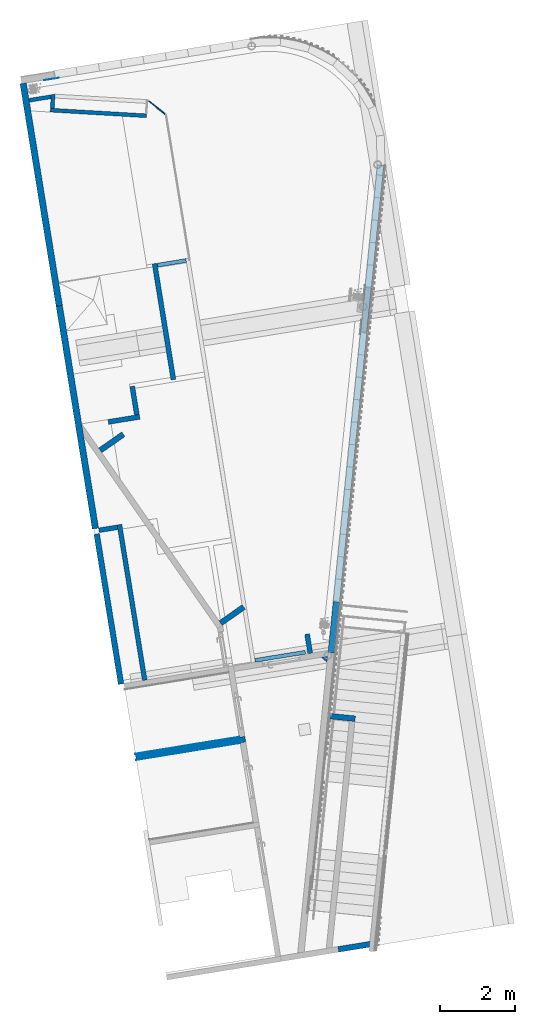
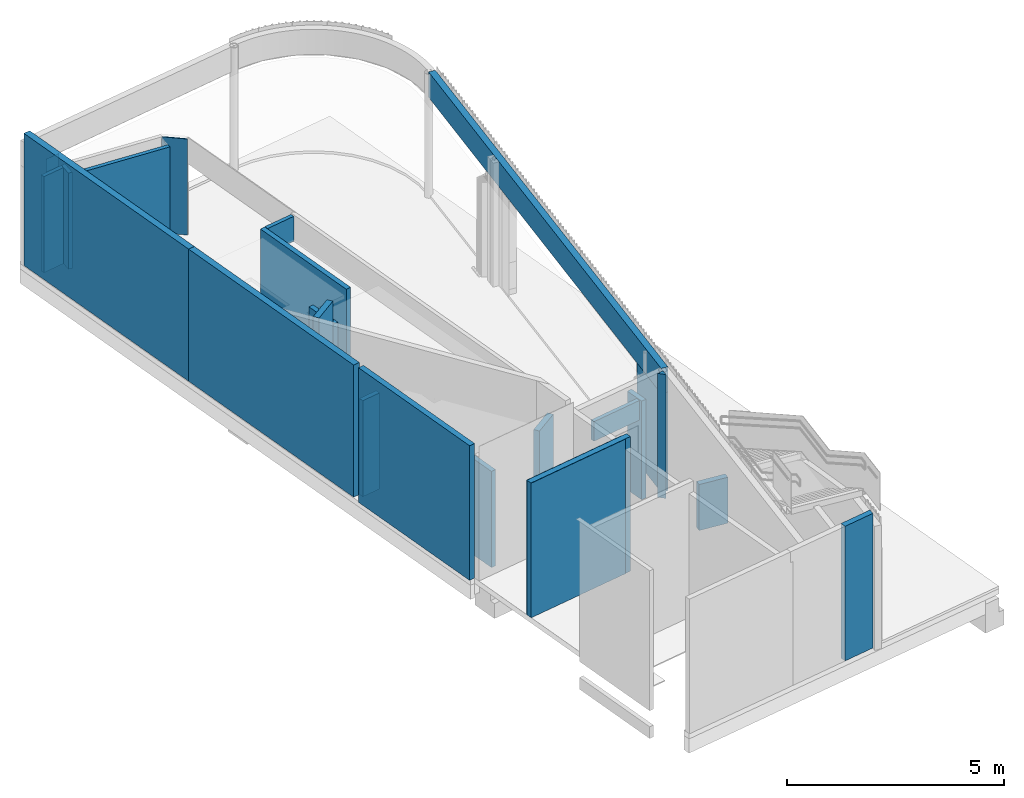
# One storey, part 10 of 23: 26 walls.
"""IFC2X3 building model written with IfcOpenShell, lengths in millimetres."""

from ifc_helpers import new_model, entity, si_unit, converted_unit, derived_unit, direction, frame, frame_2d, origin, origin_with_axes, place, context, subcontext, project, spatial, polyline, rectangle, outline, extrude, material, layer, layer_set, layer_usage, type_object, element, save


model = new_model("IFC2X3")

# Units and contexts
plan_context = context("Plan", 3, precision=1e-05, world=origin_with_axes())
model_context = context("Model", 3, precision=0.01, world=origin(), true_north=direction((6.12323399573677e-17, 1.0)))
body_context = subcontext(model_context, "Body", "Model", "MODEL_VIEW")
ifc_project = project(units=[converted_unit("PLANEANGLEUNIT", "DEGREE", entity("IfcPositiveLengthMeasure", 0.0174532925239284), si_unit("PLANEANGLEUNIT", "RADIAN"), dimensions=[0, 0, 0, 0, 0, 0, 0]), si_unit("AREAUNIT", "SQUARE_METRE"), si_unit("LENGTHUNIT", "METRE", prefix="MILLI"), si_unit("MASSUNIT", "GRAM", prefix="KILO"), si_unit("POWERUNIT", "WATT"), si_unit("PRESSUREUNIT", "PASCAL", prefix="KILO"), si_unit("FORCEUNIT", "NEWTON", prefix="KILO"), si_unit("ELECTRICVOLTAGEUNIT", "VOLT"), si_unit("ELECTRICCURRENTUNIT", "AMPERE"), si_unit("THERMODYNAMICTEMPERATUREUNIT", "DEGREE_CELSIUS"), si_unit("TIMEUNIT", "SECOND"), si_unit("VOLUMEUNIT", "CUBIC_METRE"), derived_unit("LINEARVELOCITYUNIT", [(si_unit("LENGTHUNIT", "METRE"), 1), (si_unit("TIMEUNIT", "SECOND"), -1)]), derived_unit("VOLUMETRICFLOWRATEUNIT", [(si_unit("VOLUMEUNIT", "CUBIC_METRE"), 1), (si_unit("TIMEUNIT", "SECOND"), -1)]), derived_unit("THERMALTRANSMITTANCEUNIT", [(si_unit("POWERUNIT", "WATT"), 1), (si_unit("THERMODYNAMICTEMPERATUREUNIT", "KELVIN"), -1), (si_unit("AREAUNIT", "SQUARE_METRE"), -1)]), derived_unit("SOUNDPRESSUREUNIT", [(si_unit("PRESSUREUNIT", "PASCAL"), 1)])], contexts=[model_context, plan_context])

# Site, building, storey
site_placement = place(None, frame((-0.00071070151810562, 0.00438415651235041, 0.0), z_axis=(0.0, 0.0, 1.0), x_axis=(-0.160236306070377, 0.987078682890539, 0.0)))
site = spatial("IfcSite", under=ifc_project, at=site_placement, Name="Default", CompositionType="ELEMENT")
building_placement = place(site_placement, origin_with_axes())
building = spatial("IfcBuilding", under=site, at=building_placement, Name="TOO", CompositionType="ELEMENT")
storey_placement = place(building_placement, frame((0.0, 0.0, 58999.9999999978), z_axis=(0.0, 0.0, 1.0), x_axis=(1.0, 0.0, 0.0)))
storey = spatial("IfcBuildingStorey", under=building, at=storey_placement, Name="Nivå F", CompositionType="ELEMENT", Elevation=58999.9999999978)

# Walls
ifc_material_1 = material(Name="A240 - Gipsplate")
ifc_layer_1 = layer(ifc_material_1, 12.5)
ifc_layer_2 = layer(ifc_material_1, 12.5)
ifc_material_2 = material(Name="A200 - Isolasjon - Rock Wool")
ifc_layer_3 = layer(ifc_material_2, 100.0)
ifc_layer_4 = layer(ifc_material_1, 12.5)
ifc_layer_5 = layer(ifc_material_1, 12.5)
ifc_layer_set_1 = layer_set([ifc_layer_1, ifc_layer_2, ifc_layer_3, ifc_layer_4, ifc_layer_5], Name="Basic Wall:A242 - GG100/100GG")
ifc_layer_usage_1 = layer_usage(ifc_layer_set_1, "AXIS2", "POSITIVE", -75.0)
wall_type_1 = type_object("IfcWallType", Name="Basic Wall:A242 - GG100/100GG", PredefinedType="STANDARD", material=ifc_layer_set_1)
wall_1_placement = place(storey_placement, frame((769027.619644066, -501027.480498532, -70.0), z_axis=(0.0, 0.0, 1.0), x_axis=(0.0, -1.0, 0.0)))
element("IfcWallStandardCase", 1, at=wall_1_placement, inside=storey, type_object=wall_type_1, material=ifc_layer_usage_1, Name="Basic Wall:A242 - GG100/100GG", ObjectType="Basic Wall:A242 - GG100/100GG", context=body_context, shape_type="SweptSolid", body=[
    extrude(rectangle(XDim=2952.24905381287, YDim=150.00000000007, at=frame_2d((1476.12452690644, -2.0961010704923e-12), x_axis=(-1.0, 0.0))), origin(), (0.0, 0.0, 1.0), 3780.00000000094),
])
ifc_layer_usage_2 = layer_usage(ifc_layer_set_1, "AXIS2", "POSITIVE", -75.0)
wall_2_placement = place(storey_placement, frame((771002.619644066, -500952.480498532, -70.0), z_axis=(0.0, 0.0, 1.0), x_axis=(1.0, 0.0, 0.0)))
element("IfcWallStandardCase", 2, at=wall_2_placement, inside=storey, type_object=wall_type_1, material=ifc_layer_usage_2, Name="Basic Wall:A242 - GG100/100GG", ObjectType="Basic Wall:A242 - GG100/100GG", context=body_context, shape_type="SweptSolid", body=[
    extrude(rectangle(XDim=4045.00000000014, YDim=149.999999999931, at=frame_2d((2022.50000000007, 5.45696821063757e-12), x_axis=(-1.0, 0.0))), origin(), (0.0, 0.0, 1.0), 3780.00000000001),
])
ifc_layer_usage_3 = layer_usage(ifc_layer_set_1, "AXIS2", "NEGATIVE", 75.0)
wall_3_placement = place(storey_placement, frame((763112.619644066, -506388.487661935, -70.0), z_axis=(0.0, 0.0, 1.0), x_axis=(0.0, 1.0, 0.0)))
element("IfcWallStandardCase", 3, at=wall_3_placement, inside=storey, type_object=wall_type_1, material=ifc_layer_usage_3, Name="Basic Wall:A242 - GG100/100GG", ObjectType="Basic Wall:A242 - GG100/100GG", context=body_context, shape_type="SweptSolid", body=[
    extrude(outline(polyline([(862.448702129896, -75.0), (862.448702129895, 75.0), (40.1923788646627, 75.0), (0.0, -75.0), (862.448702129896, -75.0)])), origin(), (0.0, 0.0, 1.0), 3780.00000000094),
])
ifc_layer_usage_4 = layer_usage(ifc_layer_set_1, "AXIS2", "POSITIVE", -75.0)
wall_4_placement = place(storey_placement, frame((769096.069866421, -506951.749339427, -70.0), z_axis=(0.0, 0.0, 1.0), x_axis=(0.258819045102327, 0.96592582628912, 0.0)))
element("IfcWallStandardCase", 4, at=wall_4_placement, inside=storey, type_object=wall_type_1, material=ifc_layer_usage_4, Name="Basic Wall:A242 - GG100/100GG", ObjectType="Basic Wall:A242 - GG100/100GG", context=body_context, shape_type="SweptSolid", body=[
    extrude(rectangle(XDim=725.000000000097, YDim=150.000000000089, at=frame_2d((362.500000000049, -3.85256271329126e-11), x_axis=(-1.0, 0.0))), origin(), (0.0, 0.0, 1.0), 1289.99999999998),
])
ifc_layer_usage_5 = layer_usage(ifc_layer_set_1, "AXIS2", "NEGATIVE", 75.0)
wall_5_placement = place(storey_placement, frame((772179.758223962, -503826.690202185, 0.0), z_axis=(0.0, 0.0, 1.0), x_axis=(0.433104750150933, -0.901343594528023, 0.0)))
element("IfcWallStandardCase", 5, at=wall_5_placement, inside=storey, type_object=wall_type_1, material=ifc_layer_usage_5, Name="Basic Wall:A242 - GG100/100GG", ObjectType="Basic Wall:A242 - GG100/100GG", context=body_context, shape_type="SweptSolid", body=[
    extrude(rectangle(XDim=750.000000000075, YDim=149.999999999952, at=frame_2d((375.000000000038, 2.8173019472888e-11), x_axis=(-1.0, 0.0))), origin(), (0.0, 0.0, 1.0), 2200.00000000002),
])
ifc_layer_usage_6 = layer_usage(ifc_layer_set_1, "AXIS2", "NEGATIVE", 75.0)
wall_6_placement = place(storey_placement, frame((777227.282353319, -501401.303601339, 0.0), z_axis=(0.0, 0.0, 1.0), x_axis=(0.433104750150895, -0.901343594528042, 0.0)))
element("IfcWallStandardCase", 6, at=wall_6_placement, inside=storey, type_object=wall_type_1, material=ifc_layer_usage_6, Name="Basic Wall:A242 - GG100/100GG", ObjectType="Basic Wall:A242 - GG100/100GG", context=body_context, shape_type="SweptSolid", body=[
    extrude(rectangle(XDim=749.999999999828, YDim=149.999999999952, at=frame_2d((374.999999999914, 2.66027200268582e-11), x_axis=(-1.0, 0.0))), origin(), (0.0, 0.0, 1.0), 3709.99999999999),
])
ifc_layer_6 = layer(ifc_material_1, 12.5)
ifc_layer_7 = layer(ifc_material_1, 12.5)
ifc_layer_8 = layer(ifc_material_2, 120.0)
ifc_layer_9 = layer(ifc_material_1, 12.5)
ifc_layer_10 = layer(ifc_material_1, 12.5)
ifc_layer_set_2 = layer_set([ifc_layer_6, ifc_layer_7, ifc_layer_8, ifc_layer_9, ifc_layer_10], Name="Basic Wall:A242 - GG120/100GG")
ifc_layer_usage_7 = layer_usage(ifc_layer_set_2, "AXIS2", "POSITIVE", -85.0)
wall_type_2 = type_object("IfcWallType", Name="Basic Wall:A242 - GG120/100GG", PredefinedType="STANDARD", material=ifc_layer_set_2)
wall_7_placement = place(storey_placement, frame((775197.619644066, -500942.480498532, 0.0), z_axis=(0.0, 0.0, 1.0), x_axis=(1.0, 0.0, 0.0)))
element("IfcWallStandardCase", 7, at=wall_7_placement, inside=storey, type_object=wall_type_2, material=ifc_layer_usage_7, Name="Basic Wall:A242 - GG120/100GG", ObjectType="Basic Wall:A242 - GG120/100GG", context=body_context, shape_type="SweptSolid", body=[
    extrude(rectangle(XDim=6000.00000000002, YDim=169.999999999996, at=frame_2d((3000.00000000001, 0.0), x_axis=(-1.0, 0.0))), origin(), (0.0, 0.0, 1.0), 3709.99999999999),
])
ifc_layer_usage_8 = layer_usage(ifc_layer_set_2, "AXIS2", "NEGATIVE", 85.0)
wall_8_placement = place(storey_placement, frame((783526.338889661, -509979.754564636, 2700.0), z_axis=(0.0, 0.0, 1.0), x_axis=(-0.965925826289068, 0.258819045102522, 0.0)))
element("IfcWallStandardCase", 8, at=wall_8_placement, inside=storey, type_object=wall_type_2, material=ifc_layer_usage_8, Name="Basic Wall:A242 - GG120/100GG", ObjectType="Basic Wall:A242 - GG120/100GG", context=body_context, shape_type="SweptSolid", body=[
    extrude(rectangle(XDim=13043.1539386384, YDim=169.999999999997, at=frame_2d((6521.5769693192, -1.23634436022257e-12), x_axis=(-1.0, 0.0))), origin(), (0.0, 0.0, 1.0), 709.999999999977),
])
ifc_layer_usage_9 = layer_usage(ifc_layer_set_2, "AXIS2", "NEGATIVE", 85.0)
wall_9_placement = place(storey_placement, frame((772240.60755991, -506955.417108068, -70.0), z_axis=(0.0, 0.0, 1.0), x_axis=(-0.965925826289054, 0.258819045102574, 0.0)))
element("IfcWallStandardCase", 9, at=wall_9_placement, inside=storey, type_object=wall_type_2, material=ifc_layer_usage_9, Name="Basic Wall:A242 - GG120/100GG", ObjectType="Basic Wall:A242 - GG120/100GG", context=body_context, shape_type="SweptSolid", body=[
    extrude(rectangle(XDim=1359.21844609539, YDim=169.999999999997, at=frame_2d((679.609223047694, 1.79412040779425e-11), x_axis=(-1.0, 0.0))), origin(), (0.0, 0.0, 1.0), 2769.99999999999),
])
ifc_layer_usage_10 = layer_usage(ifc_layer_set_2, "AXIS2", "POSITIVE", -85.0)
wall_10_placement = place(storey_placement, frame((781197.619644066, -500942.480498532, 0.0), z_axis=(0.0, 0.0, 1.0), x_axis=(1.0, 0.0, 0.0)))
element("IfcWallStandardCase", 10, at=wall_10_placement, inside=storey, type_object=wall_type_2, material=ifc_layer_usage_10, Name="Basic Wall:A242 - GG120/100GG", ObjectType="Basic Wall:A242 - GG120/100GG", context=body_context, shape_type="SweptSolid", body=[
    extrude(rectangle(XDim=5995.00000000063, YDim=169.999999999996, at=frame_2d((2997.50000000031, 0.0), x_axis=(-1.0, 0.0))), origin(), (0.0, 0.0, 1.0), 3709.99999999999),
])
ifc_material_3 = material(Name="A240 - Fibergips (R)")
ifc_layer_11 = layer(ifc_material_3, 9.0)
ifc_layer_set_3 = layer_set([ifc_layer_11], Name="Basic Wall:A246 - Fs04")
ifc_layer_usage_11 = layer_usage(ifc_layer_set_3, "AXIS2", "NEGATIVE", 4.5)
wall_type_3 = type_object("IfcWallType", Name="Basic Wall:A246 - Fs04", PredefinedType="STANDARD", material=ifc_layer_set_3)
wall_11_placement = place(storey_placement, frame((769107.119644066, -503829.729552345, -70.0), z_axis=(0.0, 0.0, 1.0), x_axis=(0.0, 1.0, 0.0)))
element("IfcWallStandardCase", 11, at=wall_11_placement, inside=storey, type_object=wall_type_3, material=ifc_layer_usage_11, Name="Basic Wall:A246 - Fs04", ObjectType="Basic Wall:A246 - Fs04", context=body_context, shape_type="SweptSolid", body=[
    extrude(rectangle(XDim=2802.49905381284, YDim=9.00000000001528, at=frame_2d((1401.24952690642, 0.0), x_axis=(-1.0, 0.0))), origin(), (0.0, 0.0, 1.0), 3780.00015869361),
])
ifc_layer_usage_12 = layer_usage(ifc_layer_set_3, "AXIS2", "NEGATIVE", 4.5)
wall_12_placement = place(storey_placement, frame((768948.119644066, -503829.729552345, -70.0), z_axis=(0.0, 0.0, 1.0), x_axis=(0.0, 1.0, 0.0)))
element("IfcWallStandardCase", 12, at=wall_12_placement, inside=storey, type_object=wall_type_3, material=ifc_layer_usage_12, Name="Basic Wall:A246 - Fs04", ObjectType="Basic Wall:A246 - Fs04", context=body_context, shape_type="SweptSolid", body=[
    extrude(rectangle(XDim=2802.49905381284, YDim=9.00000000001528, at=frame_2d((1401.24952690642, 0.0), x_axis=(-1.0, 0.0))), origin(), (0.0, 0.0, 1.0), 3780.00015869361),
])
ifc_layer_12 = layer(ifc_material_1, 12.5)
ifc_layer_13 = layer(ifc_material_1, 12.5)
ifc_material_4 = material(Name="A240 - Stenderverk - Uisolert")
ifc_layer_14 = layer(ifc_material_4, 100.0)
ifc_layer_set_4 = layer_set([ifc_layer_12, ifc_layer_13, ifc_layer_14], Name="Basic Wall:A242 - GG100/0")
ifc_layer_usage_13 = layer_usage(ifc_layer_set_4, "AXIS2", "POSITIVE", -62.5)
wall_type_4 = type_object("IfcWallType", Name="Basic Wall:A242 - GG100/0", PredefinedType="STANDARD", material=ifc_layer_set_4)
wall_13_placement = place(storey_placement, frame((771002.619644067, -501589.980498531, 0.0), z_axis=(0.0, 0.0, 1.0), x_axis=(1.0, 0.0, 0.0)))
element("IfcWallStandardCase", 13, at=wall_13_placement, inside=storey, type_object=wall_type_4, material=ifc_layer_usage_13, Name="Basic Wall:A242 - GG100/0", ObjectType="Basic Wall:A242 - GG100/0", context=body_context, shape_type="SweptSolid", body=[
    extrude(rectangle(XDim=4194.99999999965, YDim=125.000000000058, at=frame_2d((2097.49999999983, 0.0), x_axis=(-1.0, 0.0))), origin(), (0.0, 0.0, 1.0), 2700.00000000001),
])
ifc_layer_usage_14 = layer_usage(ifc_layer_set_4, "AXIS2", "NEGATIVE", 62.5)
wall_14_placement = place(storey_placement, frame((775135.119644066, -501027.480498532, 0.0), z_axis=(0.0, 0.0, 1.0), x_axis=(0.0, -1.0, 0.0)))
element("IfcWallStandardCase", 14, at=wall_14_placement, inside=storey, type_object=wall_type_4, material=ifc_layer_usage_14, Name="Basic Wall:A242 - GG100/0", ObjectType="Basic Wall:A242 - GG100/0", context=body_context, shape_type="SweptSolid", body=[
    extrude(rectangle(XDim=499.999999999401, YDim=125.000000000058, at=frame_2d((249.999999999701, 0.0), x_axis=(-1.0, 0.0))), origin(), (0.0, 0.0, 1.0), 2700.00000000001),
])
ifc_layer_usage_15 = layer_usage(ifc_layer_set_4, "AXIS2", "NEGATIVE", 62.5)
wall_15_placement = place(storey_placement, frame((770731.419407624, -506502.757509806, -70.0), z_axis=(0.0, 0.0, 1.0), x_axis=(0.793353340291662, 0.608761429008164, 0.0)))
element("IfcWallStandardCase", 15, at=wall_15_placement, inside=storey, type_object=wall_type_4, material=ifc_layer_usage_15, Name="Basic Wall:A242 - GG100/0", ObjectType="Basic Wall:A242 - GG100/0", context=body_context, shape_type="SweptSolid", body=[
    extrude(outline(polyline([(104.811617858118, -62.5000000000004), (200.727491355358, 62.5000000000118), (0.0, 62.4999999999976), (95.9158734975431, -62.4999999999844), (104.811617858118, -62.5000000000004)])), origin(), (0.0, 0.0, 1.0), 3480.00000000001),
])
ifc_layer_15 = layer(ifc_material_1, 12.5)
ifc_material_5 = material(Name="A240 - X-finer")
ifc_layer_16 = layer(ifc_material_5, 15.0)
ifc_layer_17 = layer(ifc_material_4, 75.0)
ifc_layer_18 = layer(ifc_material_5, 15.0)
ifc_layer_19 = layer(ifc_material_1, 12.5)
ifc_layer_set_5 = layer_set([ifc_layer_15, ifc_layer_16, ifc_layer_17, ifc_layer_18, ifc_layer_19], Name="Basic Wall:A242 - GX75/0XG (KA)")
ifc_layer_usage_16 = layer_usage(ifc_layer_set_5, "AXIS2", "NEGATIVE", 65.0)
wall_type_5 = type_object("IfcWallType", Name="Basic Wall:A242 - GX75/0XG (KA)", PredefinedType="STANDARD", material=ifc_layer_set_5)
wall_16_placement = place(storey_placement, frame((778005.119644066, -502514.980498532, 0.0), z_axis=(0.0, 0.0, 1.0), x_axis=(1.0, 0.0, 0.0)))
element("IfcWallStandardCase", 16, at=wall_16_placement, inside=storey, type_object=wall_type_5, material=ifc_layer_usage_16, Name="Basic Wall:A242 - GX75/0XG (KA)", ObjectType="Basic Wall:A242 - GX75/0XG (KA)", context=body_context, shape_type="SweptSolid", body=[
    extrude(rectangle(XDim=770.000000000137, YDim=130.000000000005, at=frame_2d((385.000000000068, 0.0), x_axis=(-1.0, 0.0))), origin(), (0.0, 0.0, 1.0), 2700.00000000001),
])
ifc_layer_usage_17 = layer_usage(ifc_layer_set_5, "AXIS2", "NEGATIVE", 65.0)
wall_17_placement = place(storey_placement, frame((778775.119644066, -503624.980498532, 0.0), z_axis=(0.0, 0.0, 1.0), x_axis=(1.0, 0.0, 0.0)))
element("IfcWallStandardCase", 17, at=wall_17_placement, inside=storey, type_object=wall_type_5, material=ifc_layer_usage_17, Name="Basic Wall:A242 - GX75/0XG (KA)", ObjectType="Basic Wall:A242 - GX75/0XG (KA)", context=body_context, shape_type="SweptSolid", body=[
    extrude(rectangle(XDim=3122.49999999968, YDim=130.000000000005, at=frame_2d((1561.24999999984, 0.0), x_axis=(-1.0, 0.0))), origin(), (0.0, 0.0, 1.0), 2700.00000000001),
])
ifc_layer_usage_18 = layer_usage(ifc_layer_set_5, "AXIS2", "NEGATIVE", 65.0)
wall_18_placement = place(storey_placement, frame((777940.119644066, -501734.980498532, 0.0), z_axis=(0.0, 0.0, 1.0), x_axis=(0.0, -1.0, 0.0)))
element("IfcWallStandardCase", 18, at=wall_18_placement, inside=storey, type_object=wall_type_5, material=ifc_layer_usage_18, Name="Basic Wall:A242 - GX75/0XG (KA)", ObjectType="Basic Wall:A242 - GX75/0XG (KA)", context=body_context, shape_type="SweptSolid", body=[
    extrude(rectangle(XDim=845.000000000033, YDim=130.000000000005, at=frame_2d((422.500000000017, 0.0), x_axis=(-1.0, 0.0))), origin(), (0.0, 0.0, 1.0), 2700.00000000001),
])
ifc_layer_usage_19 = layer_usage(ifc_layer_set_5, "AXIS2", "NEGATIVE", 65.0)
wall_19_placement = place(storey_placement, frame((771002.619644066, -506050.583935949, -70.0), z_axis=(0.0, 0.0, 1.0), x_axis=(1.0, 0.0, 0.0)))
element("IfcWallStandardCase", 19, at=wall_19_placement, inside=storey, type_object=wall_type_5, material=ifc_layer_usage_19, Name="Basic Wall:A242 - GX75/0XG (KA)", ObjectType="Basic Wall:A242 - GX75/0XG (KA)", context=body_context, shape_type="SweptSolid", body=[
    extrude(rectangle(XDim=522.230196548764, YDim=130.000000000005, at=frame_2d((261.115098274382, 0.0), x_axis=(-1.0, 0.0))), origin(), (0.0, 0.0, 1.0), 2770.00000000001),
])
ifc_layer_20 = layer(ifc_material_1, 12.5)
ifc_layer_21 = layer(ifc_material_5, 15.0)
ifc_layer_22 = layer(ifc_material_4, 75.0)
ifc_layer_set_6 = layer_set([ifc_layer_20, ifc_layer_21, ifc_layer_22], Name="Basic Wall:A242 - GX75/0 (KA)")
ifc_layer_usage_20 = layer_usage(ifc_layer_set_6, "AXIS2", "NEGATIVE", 51.25)
wall_type_6 = type_object("IfcWallType", Name="Basic Wall:A242 - GX75/0 (KA)", PredefinedType="STANDARD", material=ifc_layer_set_6)
wall_20_placement = place(storey_placement, frame((786374.115222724, -501540.374757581, 0.0), z_axis=(0.0, 0.0, 1.0), x_axis=(-0.218143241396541, -0.975916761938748, 0.0)))
element("IfcWallStandardCase", 20, at=wall_20_placement, inside=storey, type_object=wall_type_6, material=ifc_layer_usage_20, Name="Basic Wall:A242 - GX75/0 (KA)", ObjectType="Basic Wall:A242 - GX75/0 (KA)", context=body_context, shape_type="SweptSolid", body=[
    extrude(rectangle(XDim=2565.00000000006, YDim=102.49999999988, at=frame_2d((1282.50000000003, 1.77280412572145e-11), x_axis=(-1.0, 0.0))), origin(), (0.0, 0.0, 1.0), 2700.00000000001),
])
ifc_layer_usage_21 = layer_usage(ifc_layer_set_6, "AXIS2", "POSITIVE", -51.25)
wall_21_placement = place(storey_placement, frame((786412.951115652, -501601.570332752, 0.0), z_axis=(0.0, 0.0, 1.0), x_axis=(0.975916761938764, -0.218143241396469, 0.0)))
element("IfcWallStandardCase", 21, at=wall_21_placement, inside=storey, type_object=wall_type_6, material=ifc_layer_usage_21, Name="Basic Wall:A242 - GX75/0 (KA)", ObjectType="Basic Wall:A242 - GX75/0 (KA)", context=body_context, shape_type="SweptSolid", body=[
    extrude(outline(polyline([(380.0, -51.2499999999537), (357.088535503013, 51.2500000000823), (252.059086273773, 51.2500000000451), (0.0, 51.2500000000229), (0.0, -51.2499999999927), (380.0, -51.2499999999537)])), origin(), (0.0, 0.0, 1.0), 2700.00000000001),
])
ifc_layer_usage_22 = layer_usage(ifc_layer_set_6, "AXIS2", "NEGATIVE", 51.25)
wall_22_placement = place(storey_placement, frame((786721.369644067, -501027.480498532, 0.0), z_axis=(0.0, 0.0, 1.0), x_axis=(0.0, -1.0, 0.0)))
element("IfcWallStandardCase", 22, at=wall_22_placement, inside=storey, type_object=wall_type_6, material=ifc_layer_usage_22, Name="Basic Wall:A242 - GX75/0 (KA)", ObjectType="Basic Wall:A242 - GX75/0 (KA)", context=body_context, shape_type="SweptSolid", body=[
    extrude(outline(polyline([(579.05908627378, -51.2500000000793), (601.970550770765, 51.2499999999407), (0.0, 51.2499999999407), (0.0, -51.2500000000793), (579.05908627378, -51.2500000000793)])), origin(), (0.0, 0.0, 1.0), 2700.00000000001),
])
ifc_layer_usage_23 = layer_usage(ifc_layer_set_6, "AXIS2", "POSITIVE", -51.25)
wall_23_placement = place(storey_placement, frame((781846.369644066, -504466.980498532, 2010.0), z_axis=(0.0, 0.0, 1.0), x_axis=(0.0, 1.0, 0.0)))
element("IfcWallStandardCase", 23, at=wall_23_placement, inside=storey, type_object=wall_type_6, material=ifc_layer_usage_23, Name="Basic Wall:A242 - GX75/0 (KA)", ObjectType="Basic Wall:A242 - GX75/0 (KA)", context=body_context, shape_type="SweptSolid", body=[
    extrude(rectangle(XDim=776.999999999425, YDim=102.499999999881, at=frame_2d((388.499999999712, 0.0), x_axis=(-1.0, 0.0))), origin(), (0.0, 0.0, 1.0), 699.999999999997),
])
ifc_layer_usage_24 = layer_usage(ifc_layer_set_6, "AXIS2", "NEGATIVE", 51.25)
wall_24_placement = place(storey_placement, frame((771053.869644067, -504569.480498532, 2200.0), z_axis=(0.0, 0.0, 1.0), x_axis=(0.0, -1.0, 0.0)))
element("IfcWallStandardCase", 24, at=wall_24_placement, inside=storey, type_object=wall_type_6, material=ifc_layer_usage_24, Name="Basic Wall:A242 - GX75/0 (KA)", ObjectType="Basic Wall:A242 - GX75/0 (KA)", context=body_context, shape_type="SweptSolid", body=[
    extrude(rectangle(XDim=1354.90467410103, YDim=102.499999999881, at=frame_2d((677.452337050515, 2.98427949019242e-13), x_axis=(-1.0, 0.0))), origin(), (0.0, 0.0, 1.0), 549.999999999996),
])
ifc_layer_23 = layer(ifc_material_1, 12.5)
ifc_layer_24 = layer(ifc_material_5, 15.0)
ifc_layer_set_7 = layer_set([ifc_layer_23, ifc_layer_24], Name="Basic Wall:A242 - GX (KA)")
ifc_layer_usage_25 = layer_usage(ifc_layer_set_7, "AXIS2", "NEGATIVE", 13.75)
wall_type_7 = type_object("IfcWallType", Name="Basic Wall:A242 - GX (KA)", PredefinedType="STANDARD", material=ifc_layer_set_7)
wall_25_placement = place(storey_placement, frame((786216.902325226, -504145.93203001, 0.0), z_axis=(0.0, 0.0, 1.0), x_axis=(-0.743144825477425, -0.669130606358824, 0.0)))
element("IfcWallStandardCase", 25, at=wall_25_placement, inside=storey, type_object=wall_type_7, material=ifc_layer_usage_25, Name="Basic Wall:A242 - GX (KA)", ObjectType="Basic Wall:A242 - GX (KA)", context=body_context, shape_type="SweptSolid", body=[
    extrude(outline(polyline([(607.156070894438, -13.7499999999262), (606.321699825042, -12.998728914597), (576.614226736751, 13.7500000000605), (38.6962591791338, 13.7500000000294), (0.0, -13.7499999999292), (607.156070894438, -13.7499999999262)])), origin(), (0.0, 0.0, 1.0), 2695.74435209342),
])
ifc_material_6 = material(Name="A256 - Metall  Aluminum beslag")
ifc_layer_25 = layer(ifc_material_6, 5.0)
ifc_layer_set_8 = layer_set([ifc_layer_25], Name="Basic Wall:A256 Metal beslag (KA)")
ifc_layer_usage_26 = layer_usage(ifc_layer_set_8, "AXIS2", "NEGATIVE", 2.5)
wall_type_8 = type_object("IfcWallType", Name="Basic Wall:A256 Metal beslag (KA)", PredefinedType="STANDARD", material=ifc_layer_set_8)
wall_26_placement = place(storey_placement, frame((787185.655021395, -501509.613213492, 0.0), z_axis=(0.0, 0.0, 1.0), x_axis=(0.0, -1.0, 0.0)))
element("IfcWallStandardCase", 26, at=wall_26_placement, inside=storey, type_object=wall_type_8, material=ifc_layer_usage_26, Name="Basic Wall:A256 Metal beslag (KA)", ObjectType="Basic Wall:A256 Metal beslag (KA)", context=body_context, shape_type="SweptSolid", body=[
    extrude(rectangle(XDim=387.867285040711, YDim=4.99999999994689, at=frame_2d((193.933642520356, 3.33959526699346e-11), x_axis=(-1.0, 0.0))), origin(), (0.0, 0.0, 1.0), 2699.99999999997),
])

save(model, "model.ifc")
